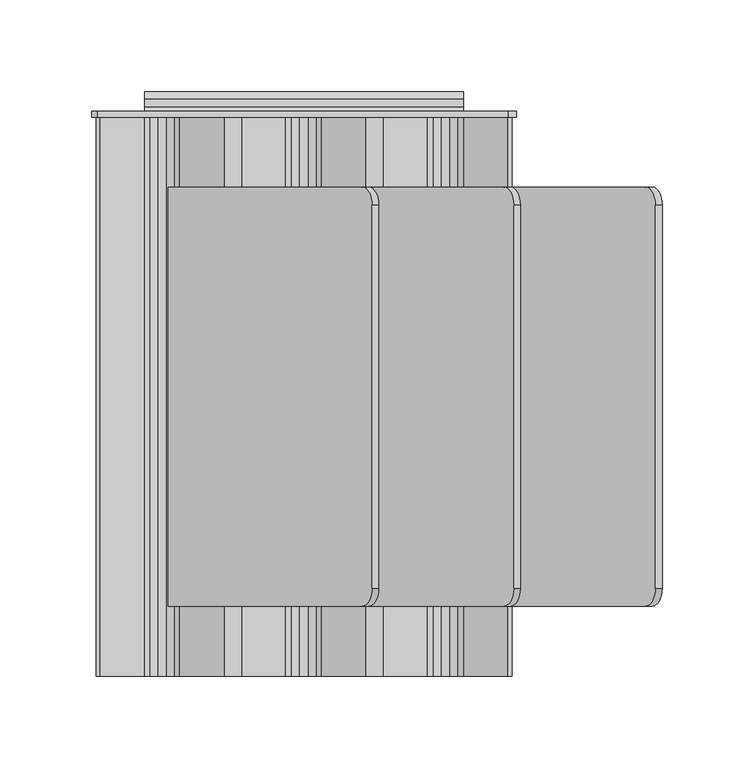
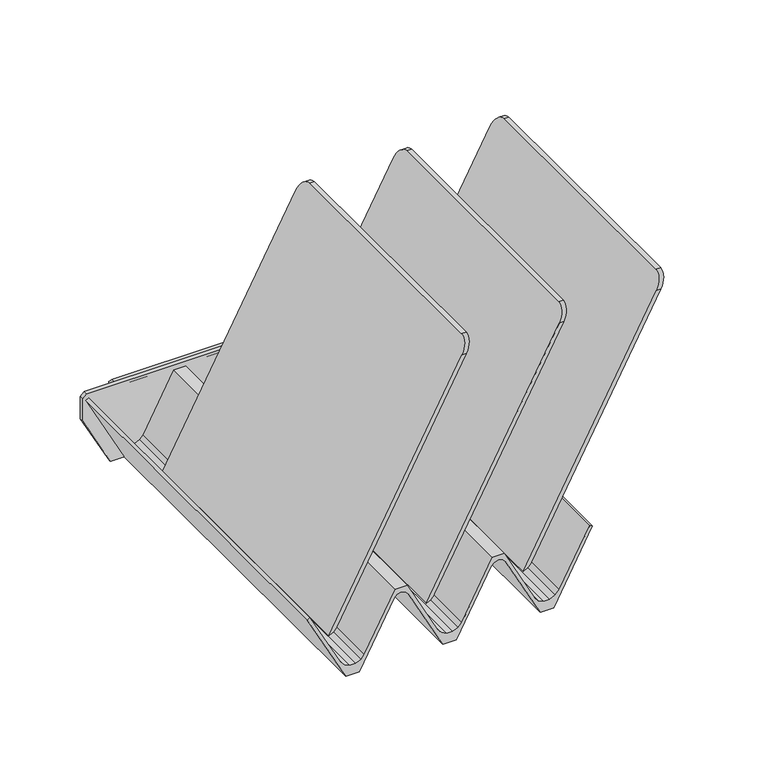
"""IFC4 building model written with IfcOpenShell, lengths in millimetres: furniture geometry."""

from ifc_helpers import new_model, si_unit, point, frame, frame_2d, origin, place, context, project, spatial, polyline, circle_curve, ellipse_curve, trimmed, segment, composite_curve, outline, extrude, source, transform, mapped, element, save
from ifc_brep_helpers import plane_surface, cylinder_surface, advanced_brep


def furniture_28e0df5b(model_context):
    return source(origin(), model_context, "Body", "SolidModel", [
        advanced_brep(
        [(-78.5076305, -115.8875182, 844.55), (-74.9117341, -115.8875182, 844.55), (35.3237269, -115.8875182, 1051.8727434), (31.7278836, -115.8875182, 1051.8727434), (-74.9117341, 112.7124864, 844.55), (-78.5076305, 112.7124864, 844.55), (31.7278836, 112.7124864, 1051.8727434), (35.3237269, 112.7124864, 1051.8727434), (40.728424, 102.8883555, 1062.0375), (40.728424, -105.9830355, 1062.0375), (37.1325833, 102.8883555, 1062.0375), (37.1325833, -105.9830355, 1062.0375)],
        [
            (0, 1),
            (1, 2),
            (2, 3),
            (3, 0),
            (4, 5),
            (5, 6),
            (6, 7),
            (7, 4),
            (0, 5),
            (4, 1),
            (7, 8, ellipse_curve(frame((35.3237269, 102.5418246, 1051.8727434), z_axis=(0.8829475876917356, 0.0, -0.46947157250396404), x_axis=(-0.4694715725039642, 0.0, -0.8829475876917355)), 11.518987, 10.1706618)),
            (8, 9),
            (9, 2, ellipse_curve(frame((35.3237269, -105.7193418, 1051.8727434), z_axis=(0.8829475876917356, 0.0, -0.46947157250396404), x_axis=(-0.4694715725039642, 0.0, -0.8829475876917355)), 11.5161721, 10.1681764)),
            (8, 10),
            (10, 11),
            (11, 9),
            (3, 11, ellipse_curve(frame((31.7278836, -105.7193418, 1051.8727434), z_axis=(-0.8829474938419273, 0.0, 0.4694717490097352), x_axis=(-0.4694717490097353, 0.0, -0.8829474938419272)), 11.5161734, 10.1681764)),
            (10, 6, ellipse_curve(frame((31.7278836, 102.5418246, 1051.8727434), z_axis=(-0.8829474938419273, 0.0, 0.4694717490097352), x_axis=(-0.4694717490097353, 0.0, -0.8829474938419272)), 11.5189882, 10.1706618)),
        ],
        [
            plane_surface(frame((-78.5076305, -115.8875182, 844.55), z_axis=(0.0, -1.0, 0.0), x_axis=(1.0, 0.0, 0.0))),
            plane_surface(frame((-78.5076305, 112.7124864, 844.55), z_axis=(0.0, 1.0, 0.0), x_axis=(-1.0, 0.0, 0.0))),
            plane_surface(frame((-78.5076305, -115.8875182, 844.55), z_axis=(0.0, 0.0, -1.0), x_axis=(0.0, 1.0, 0.0))),
            plane_surface(frame((-74.9117341, -115.8875182, 844.55), z_axis=(0.8829475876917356, 0.0, -0.46947157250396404), x_axis=(0.0, 1.0, 0.0))),
            plane_surface(frame((40.728424, -115.8875182, 1062.0375), z_axis=(0.0, 0.0, 1.0), x_axis=(0.0, 1.0, 0.0))),
            plane_surface(frame((37.1325833, -115.8875182, 1062.0375), z_axis=(-0.8829474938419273, 0.0, 0.4694717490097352), x_axis=(0.0, 1.0, 0.0))),
            cylinder_surface(frame((0.0, 102.5418246, 1051.8727434), z_axis=(-1.0, 0.0, 0.0), x_axis=(0.0, 1.0, 0.0)), 10.1706618),
            cylinder_surface(frame((0.0, -105.7193418, 1051.8727434), z_axis=(-1.0, 0.0, 0.0), x_axis=(0.0, 1.0, 0.0)), 10.1681764),
        ],
        [
            (0, [[1, 2, 3, 4]]),
            (1, [[5, 6, 7, 8]]),
            (2, [[-1, 9, -5, 10]]),
            (3, [[-10, -8, 11, 12, 13, -2]]),
            (4, [[-12, 14, 15, 16]]),
            (5, [[-9, -4, 17, -15, 18, -6]]),
            (6, [[-7, -18, -14, -11]]),
            (7, [[-3, -13, -16, -17]]),
        ],
    ),
        advanced_brep(
        [(-0.9107932, -115.8875182, 844.55), (2.3550823, -115.8875182, 844.55), (112.5905464, -115.8875182, 1051.8727434), (109.0097063, -115.8875182, 1051.8727434), (2.3550823, 112.7124864, 844.55), (-0.9107932, 112.7124864, 844.55), (109.0097063, 112.7124864, 1051.8727434), (112.5905464, 112.7124864, 1051.8727434), (117.9952436, 102.8883555, 1062.0375), (117.9952436, -105.9830355, 1062.0375), (114.3989613, 102.8883555, 1062.0375), (114.3989613, -105.9830355, 1062.0375)],
        [
            (0, 1),
            (1, 2),
            (2, 3),
            (3, 0),
            (4, 5),
            (5, 6),
            (6, 7),
            (7, 4),
            (0, 5),
            (4, 1),
            (7, 8, ellipse_curve(frame((112.5905464, 102.5418246, 1051.8727434), z_axis=(0.8829475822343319, 0.0, -0.4694715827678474), x_axis=(-0.4694715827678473, 0.0, -0.8829475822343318)), 11.518987, 10.1706618)),
            (8, 9),
            (9, 2, ellipse_curve(frame((112.5905464, -105.7193418, 1051.8727434), z_axis=(0.8829475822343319, 0.0, -0.4694715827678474), x_axis=(-0.4694715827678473, 0.0, -0.8829475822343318)), 11.5161722, 10.1681764)),
            (8, 10),
            (10, 11),
            (11, 9),
            (3, 11, ellipse_curve(frame((109.0097063, -105.7193418, 1051.8727434), z_axis=(-0.88350333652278, 0.0, 0.4684248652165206), x_axis=(-0.46842486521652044, 0.0, -0.8835033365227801)), 11.5089281, 10.1681764)),
            (10, 6, ellipse_curve(frame((109.0097063, 102.5418246, 1051.8727434), z_axis=(-0.88350333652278, 0.0, 0.4684248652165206), x_axis=(-0.46842486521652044, 0.0, -0.8835033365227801)), 11.5117412, 10.1706618)),
        ],
        [
            plane_surface(frame((-78.5076305, -115.8875182, 844.55), z_axis=(0.0, -1.0, 0.0), x_axis=(1.0, 0.0, 0.0))),
            plane_surface(frame((-78.5076305, 112.7124864, 844.55), z_axis=(0.0, 1.0, 0.0), x_axis=(-1.0, 0.0, 0.0))),
            plane_surface(frame((-0.9107932, -115.8875182, 844.55), z_axis=(0.0, 0.0, -1.0), x_axis=(0.0, 1.0, 0.0))),
            plane_surface(frame((2.3550823, -115.8875182, 844.55), z_axis=(0.8829475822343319, 0.0, -0.4694715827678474), x_axis=(0.0, 1.0, 0.0))),
            plane_surface(frame((117.9952436, -115.8875182, 1062.0375), z_axis=(0.0, 0.0, 1.0), x_axis=(0.0, 1.0, 0.0))),
            plane_surface(frame((114.3989613, -115.8875182, 1062.0375), z_axis=(-0.88350333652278, 0.0, 0.4684248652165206), x_axis=(0.0, 1.0, 0.0))),
            cylinder_surface(frame((0.0, 102.5418246, 1051.8727434), z_axis=(-1.0, 0.0, 0.0), x_axis=(0.0, 1.0, 0.0)), 10.1706618),
            cylinder_surface(frame((0.0, -105.7193418, 1051.8727434), z_axis=(-1.0, 0.0, 0.0), x_axis=(0.0, 1.0, 0.0)), 10.1681764),
        ],
        [
            (0, [[1, 2, 3, 4]]),
            (1, [[5, 6, 7, 8]]),
            (2, [[-1, 9, -5, 10]]),
            (3, [[-10, -8, 11, 12, 13, -2]]),
            (4, [[-12, 14, 15, 16]]),
            (5, [[-9, -4, 17, -15, 18, -6]]),
            (6, [[-7, -18, -14, -11]]),
            (7, [[-3, -13, -16, -17]]),
        ],
    ),
        advanced_brep(
        [(76.0259689, -115.8875182, 844.55), (79.7811739, -115.8875182, 844.55), (190.0166176, -115.8875182, 1051.8727434), (186.2614289, -115.8875182, 1051.8727434), (79.7811739, 112.7124864, 844.55), (76.0259689, 112.7124864, 844.55), (186.2614289, 112.7124864, 1051.8727434), (190.0166176, 112.7124864, 1051.8727434), (195.4213139, 102.8883555, 1062.0375), (195.4213139, -105.9830355, 1062.0375), (191.666126, 102.8883555, 1062.0375), (191.666126, -105.9830355, 1062.0375)],
        [
            (0, 1),
            (1, 2),
            (2, 3),
            (3, 0),
            (4, 5),
            (5, 6),
            (6, 7),
            (7, 4),
            (0, 5),
            (4, 1),
            (7, 8, ellipse_curve(frame((190.0166176, 102.5418246, 1051.8727434), z_axis=(0.8829476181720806, 0.0, -0.4694715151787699), x_axis=(-0.4694715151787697, 0.0, -0.8829476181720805)), 11.5189866, 10.1706618)),
            (8, 9),
            (9, 2, ellipse_curve(frame((190.0166176, -105.7193418, 1051.8727434), z_axis=(0.8829476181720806, 0.0, -0.4694715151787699), x_axis=(-0.4694715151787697, 0.0, -0.8829476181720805)), 11.5161717, 10.1681764)),
            (8, 10),
            (10, 11),
            (11, 9),
            (3, 11, ellipse_curve(frame((186.2614289, -105.7193418, 1051.8727434), z_axis=(-0.8829475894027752, 0.0, 0.46947156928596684), x_axis=(-0.4694715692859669, 0.0, -0.8829475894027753)), 11.5161721, 10.1681764)),
            (10, 6, ellipse_curve(frame((186.2614289, 102.5418246, 1051.8727434), z_axis=(-0.8829475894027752, 0.0, 0.46947156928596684), x_axis=(-0.4694715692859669, 0.0, -0.8829475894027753)), 11.5189869, 10.1706618)),
        ],
        [
            plane_surface(frame((-78.5076305, -115.8875182, 844.55), z_axis=(0.0, -1.0, 0.0), x_axis=(1.0, 0.0, 0.0))),
            plane_surface(frame((-78.5076305, 112.7124864, 844.55), z_axis=(0.0, 1.0, 0.0), x_axis=(-1.0, 0.0, 0.0))),
            plane_surface(frame((76.0259689, -115.8875182, 844.55), z_axis=(0.0, 0.0, -1.0), x_axis=(0.0, 1.0, 0.0))),
            plane_surface(frame((79.7811739, -115.8875182, 844.55), z_axis=(0.8829476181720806, 0.0, -0.4694715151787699), x_axis=(0.0, 1.0, 0.0))),
            plane_surface(frame((195.4213139, -115.8875182, 1062.0375), z_axis=(0.0, 0.0, 1.0), x_axis=(0.0, 1.0, 0.0))),
            plane_surface(frame((191.666126, -115.8875182, 1062.0375), z_axis=(-0.8829475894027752, 0.0, 0.46947156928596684), x_axis=(0.0, 1.0, 0.0))),
            cylinder_surface(frame((0.0, 102.5418246, 1051.8727434), z_axis=(-1.0, 0.0, 0.0), x_axis=(0.0, 1.0, 0.0)), 10.1706618),
            cylinder_surface(frame((0.0, -105.7193418, 1051.8727434), z_axis=(-1.0, 0.0, 0.0), x_axis=(0.0, 1.0, 0.0)), 10.1681764),
        ],
        [
            (0, [[1, 2, 3, 4]]),
            (1, [[5, 6, 7, 8]]),
            (2, [[-1, 9, -5, 10]]),
            (3, [[-10, -8, 11, 12, 13, -2]]),
            (4, [[-12, 14, 15, 16]]),
            (5, [[-9, -4, 17, -15, 18, -6]]),
            (6, [[-7, -18, -14, -11]]),
            (7, [[-3, -13, -16, -17]]),
        ],
    ),
        extrude(outline(polyline([(902.7365504, -113.3404132), (844.55, -82.6180755), (844.55, -71.8286766), (897.0740623, -44.096121), (899.3406431, -41.9545616), (900.2523762, -38.676187), (899.3406431, -35.3978079), (896.8672571, -33.0608503), (844.55, -5.4374818), (844.55, 5.4381185), (897.0740614, 33.170679), (899.3406431, 35.3122394), (900.2523762, 38.5906094), (899.3406431, 41.8689885), (896.8114359, 44.2586883), (844.55, 71.9155202), (844.55, 82.7049229), (902.736546, 113.4272483), (903.8528432, 111.3130508), (858.4055096, 87.1482781), (854.7501541, 84.0519156), (852.7357104, 79.7054876), (852.7357104, 74.9149551), (854.7501541, 70.5685271), (858.5105361, 67.3831993), (903.9224984, 43.2968127), (903.9224984, 33.9240014), (857.9004275, 9.4536309), (854.7501541, 6.7851111), (852.7357104, 2.4386922), (852.7357104, -2.3518493), (855.1854746, -6.6982682), (858.7449621, -9.9738698), (903.9224984, -33.8274808), (903.9224984, -43.3428158), (857.9003747, -67.8132137), (854.7501541, -70.4816887), (852.7357104, -74.8281031), (852.7357104, -79.6186492), (854.7501541, -83.9650636), (858.4055262, -87.0614424), (903.922503, -111.0942793), (902.7365504, -113.3404132)])), frame((0.0, -153.9875, 0.0), z_axis=(0.0, 1.0, 0.0), x_axis=(0.0, 0.0, 1.0)), (0.0, 0.0, 1.0), 304.7999878),
        extrude(outline(polyline([(904.8749994, -115.844077), (886.2399607, -115.844077), (844.55, -93.8318941), (844.55, 93.918737), (886.2399607, 115.930929), (904.8749984, 115.930929), (908.0499985, 111.5932577), (908.0499985, -112.669078), (904.8749994, -115.844077)])), frame((0.0, 150.8124878, 0.0), z_axis=(0.0, 1.0, 0.0), x_axis=(0.0, 0.0, 1.0)), (0.0, 0.0, 1.0), 3.1750122),
        extrude(outline(composite_curve([segment(polyline([(164.6784774, 901.0612114), (164.6784774, 898.4834605)]), True, "CONTINUOUS"), segment(trimmed(circle_curve(frame_2d((162.7734784, 898.4834605)), 1.904999), [point((164.6784774, 898.4834605))], [point((160.8684793, 898.4834605))], False, "CARTESIAN"), True, "CONTINUOUS"), segment(polyline([(160.8684793, 898.4834605), (160.8684793, 901.0612114), (156.5435882, 901.0612114), (153.9875, 898.5051232), (153.9875, 908.0499985), (156.5435882, 904.8712113), (160.8684775, 904.8712113), (164.6784774, 901.0612114)]), True, "CONTINUOUS")], self_intersect=False)), frame((-87.0345642, 0.0, 0.0), z_axis=(1.0, 0.0, 0.0), x_axis=(0.0, 1.0, 0.0)), (0.0, 0.0, 1.0), 174.0691284),
    ])


if __name__ == "__main__":
    model = new_model("IFC4")
    model_context = context("Model", 3, world=origin())
    ifc_project = project(units=[si_unit("LENGTHUNIT", "METRE", prefix="MILLI")], contexts=[model_context])
    site = spatial("IfcSite", under=ifc_project)
    building = spatial("IfcBuilding", under=site)
    placement = place(None, origin())
    furniture_shape = furniture_28e0df5b(model_context)
    element("IfcFurniture", 1, ObjectType="HermanMiller_ThrivePortfolio_Y7218_DiagonalTray : 8 1/2\"H x 12\"D x 13\"W", at=placement, inside=building, context=model_context, shape_type="MappedRepresentation", body=[
        mapped(furniture_shape, transform((0.0, 0.0, 0.0), x_axis=(1.0, 0.0, 0.0), y_axis=(0.0, 1.0, 0.0), z_axis=(0.0, 0.0, 1.0))),
    ])
    save(model, "model.ifc")
